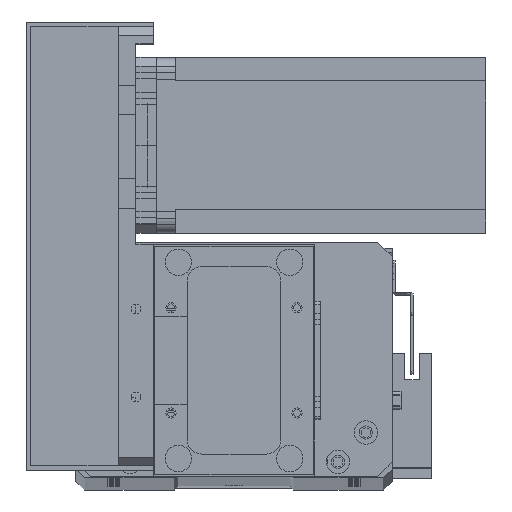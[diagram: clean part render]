
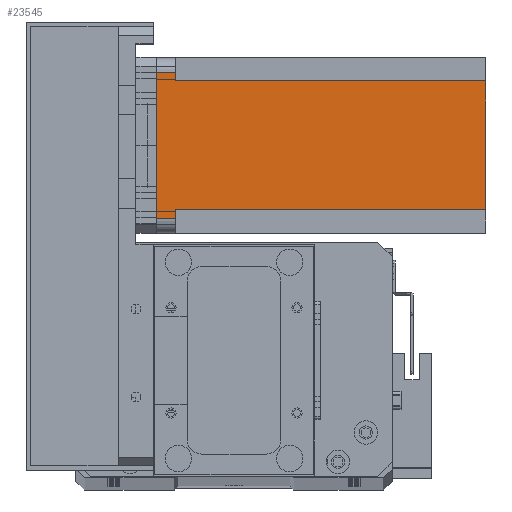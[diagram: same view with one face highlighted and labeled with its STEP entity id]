
A CAD part, top view. The second image highlights one B-rep face of the part: STEP entity #23545.
In plain terms, the highlighted planar face has unit normal (0, 0, 1) as drawn and (0, -1, 0) by its records, which use the part's own axes.
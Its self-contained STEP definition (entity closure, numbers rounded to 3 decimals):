
#1002 = VERTEX_POINT ( 'NONE', #22557 ) ;
#1434 = ORIENTED_EDGE ( 'NONE', *, *, #31544, .T. ) ;
#1683 = EDGE_CURVE ( 'NONE', #1002, #14531, #18076, .T. ) ;
#2351 = VECTOR ( 'NONE', #14217, 1000. ) ;
#2386 = VECTOR ( 'NONE', #32447, 1000. ) ;
#2549 = DIRECTION ( 'NONE',  ( 1., 0., 0. ) ) ;
#2621 = LINE ( 'NONE', #14819, #21820 ) ;
#3225 = LINE ( 'NONE', #7314, #7826 ) ;
#4577 = ORIENTED_EDGE ( 'NONE', *, *, #12481, .F. ) ;
#4855 = CARTESIAN_POINT ( 'NONE',  ( 5., 0., -6.5 ) ) ;
#5684 = CARTESIAN_POINT ( 'NONE',  ( 55., 0., 0. ) ) ;
#5742 = EDGE_CURVE ( 'NONE', #9112, #31033, #29732, .T. ) ;
#6331 = CARTESIAN_POINT ( 'NONE',  ( 52., 0., -6.5 ) ) ;
#6614 = ORIENTED_EDGE ( 'NONE', *, *, #5742, .T. ) ;
#7314 = CARTESIAN_POINT ( 'NONE',  ( 5., 0., -112.5 ) ) ;
#7826 = VECTOR ( 'NONE', #30442, 1000. ) ;
#8367 = PLANE ( 'NONE',  #21111 ) ;
#8725 = CARTESIAN_POINT ( 'NONE',  ( 5., 0., 0. ) ) ;
#8876 = EDGE_LOOP ( 'NONE', ( #11506, #30751, #16794, #1434, #13985, #4577, #6614, #9166 ) ) ;
#9112 = VERTEX_POINT ( 'NONE', #13892 ) ;
#9166 = ORIENTED_EDGE ( 'NONE', *, *, #9698, .F. ) ;
#9698 = EDGE_CURVE ( 'NONE', #32386, #31033, #16325, .T. ) ;
#10231 = EDGE_CURVE ( 'NONE', #32386, #1002, #24736, .T. ) ;
#10424 = CARTESIAN_POINT ( 'NONE',  ( 0., 0., 0. ) ) ;
#11393 = VERTEX_POINT ( 'NONE', #8725 ) ;
#11506 = ORIENTED_EDGE ( 'NONE', *, *, #10231, .T. ) ;
#12481 = EDGE_CURVE ( 'NONE', #9112, #28136, #2621, .T. ) ;
#13892 = CARTESIAN_POINT ( 'NONE',  ( 8., 0., -112.5 ) ) ;
#13985 = ORIENTED_EDGE ( 'NONE', *, *, #30701, .F. ) ;
#14217 = DIRECTION ( 'NONE',  ( 1., 0., 0. ) ) ;
#14531 = VERTEX_POINT ( 'NONE', #5684 ) ;
#14819 = CARTESIAN_POINT ( 'NONE',  ( 8., 0., -112.5 ) ) ;
#16325 = LINE ( 'NONE', #19842, #2386 ) ;
#16705 = VERTEX_POINT ( 'NONE', #4855 ) ;
#16794 = ORIENTED_EDGE ( 'NONE', *, *, #23039, .F. ) ;
#18076 = LINE ( 'NONE', #27181, #18888 ) ;
#18345 = DIRECTION ( 'NONE',  ( 1., 0., 0. ) ) ;
#18382 = CARTESIAN_POINT ( 'NONE',  ( 0., 0., -112.5 ) ) ;
#18584 = DIRECTION ( 'NONE',  ( -1., 0., 0. ) ) ;
#18888 = VECTOR ( 'NONE', #26842, 1000. ) ;
#19842 = CARTESIAN_POINT ( 'NONE',  ( 52., 0., -112.5 ) ) ;
#20057 = DIRECTION ( 'NONE',  ( 0., 0., 1. ) ) ;
#21068 = CARTESIAN_POINT ( 'NONE',  ( 8., 0., -6.5 ) ) ;
#21111 = AXIS2_PLACEMENT_3D ( 'NONE', #21265, #31340, #26365 ) ;
#21265 = CARTESIAN_POINT ( 'NONE',  ( 0., 0., -112.5 ) ) ;
#21367 = VECTOR ( 'NONE', #2549, 1000. ) ;
#21820 = VECTOR ( 'NONE', #20057, 1000. ) ;
#22557 = CARTESIAN_POINT ( 'NONE',  ( 55., 0., -6.5 ) ) ;
#22991 = VECTOR ( 'NONE', #18345, 1000. ) ;
#23039 = EDGE_CURVE ( 'NONE', #11393, #14531, #28130, .T. ) ;
#23545 = ADVANCED_FACE ( 'NONE', ( #26496 ), #8367, .T. ) ;
#24736 = LINE ( 'NONE', #29780, #2351 ) ;
#25500 = CARTESIAN_POINT ( 'NONE',  ( 8., 0., -6.5 ) ) ;
#25557 = VECTOR ( 'NONE', #18584, 1000. ) ;
#26365 = DIRECTION ( 'NONE',  ( 0., 0., -1. ) ) ;
#26496 = FACE_OUTER_BOUND ( 'NONE', #8876, .T. ) ;
#26842 = DIRECTION ( 'NONE',  ( 0., 0., 1. ) ) ;
#27181 = CARTESIAN_POINT ( 'NONE',  ( 55., 0., -112.5 ) ) ;
#28048 = CARTESIAN_POINT ( 'NONE',  ( 52., 0., -112.5 ) ) ;
#28130 = LINE ( 'NONE', #10424, #21367 ) ;
#28136 = VERTEX_POINT ( 'NONE', #25500 ) ;
#29732 = LINE ( 'NONE', #18382, #22991 ) ;
#29780 = CARTESIAN_POINT ( 'NONE',  ( 52., 0., -6.5 ) ) ;
#30442 = DIRECTION ( 'NONE',  ( 0., 0., -1. ) ) ;
#30701 = EDGE_CURVE ( 'NONE', #28136, #16705, #32286, .T. ) ;
#30751 = ORIENTED_EDGE ( 'NONE', *, *, #1683, .T. ) ;
#31033 = VERTEX_POINT ( 'NONE', #28048 ) ;
#31340 = DIRECTION ( 'NONE',  ( 0., -1., 0. ) ) ;
#31544 = EDGE_CURVE ( 'NONE', #11393, #16705, #3225, .T. ) ;
#32286 = LINE ( 'NONE', #21068, #25557 ) ;
#32386 = VERTEX_POINT ( 'NONE', #6331 ) ;
#32447 = DIRECTION ( 'NONE',  ( 0., 0., -1. ) ) ;
